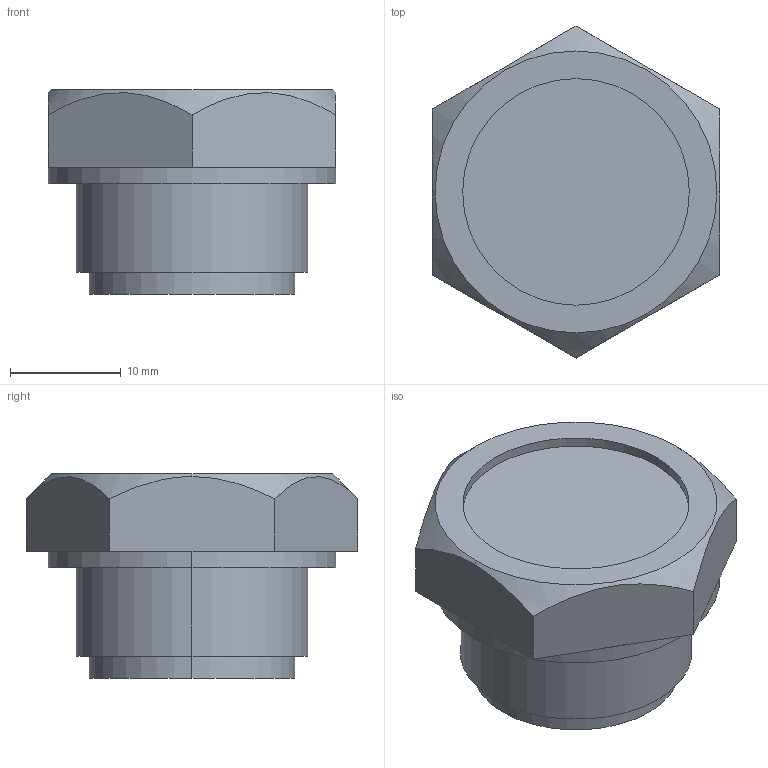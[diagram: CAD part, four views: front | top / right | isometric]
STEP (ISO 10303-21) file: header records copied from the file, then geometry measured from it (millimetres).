
FILE_DESCRIPTION (( 'STEP AP203' ), '1' );
FILE_NAME ('po-1_2.STEP', '2021-10-26T05:08:03', ( '' ), ( '' ), 'SwSTEP 2.0', 'SolidWorks 2020', '' );
FILE_SCHEMA (( 'CONFIG_CONTROL_DESIGN' ));
Length unit declared in the file: millimetre
Products named in the file (1): po-1_2
Bounding box: 26 x 30.02 x 18.5 mm (x, y, z)
Volume: 7852.4 mm3; surface area: 2571.8 mm2
Topology: 1 solids, 1 shells, 27 faces, 58 edges, 36 vertices
Faces by surface type: plane 17, cylinder 8, cone 2
Entity records: 871 total; most frequent: CARTESIAN_POINT 202, DIRECTION 128, ORIENTED_EDGE 116, EDGE_CURVE 58, AXIS2_PLACEMENT_3D 50, VERTEX_POINT 36, EDGE_LOOP 30, VECTOR 28
